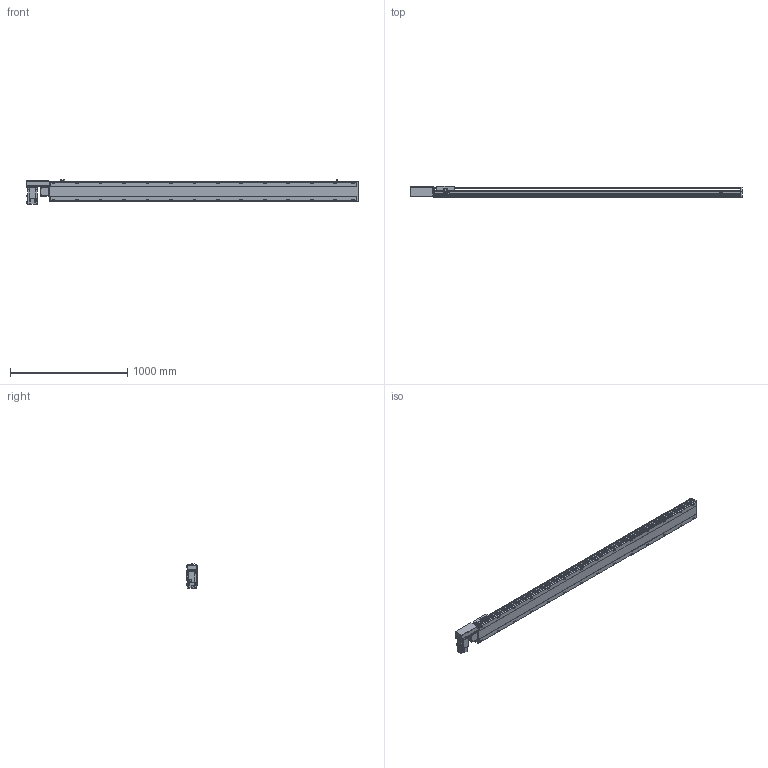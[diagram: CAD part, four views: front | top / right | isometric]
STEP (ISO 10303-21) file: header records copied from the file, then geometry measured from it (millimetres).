
FILE_DESCRIPTION(/* description */ ('STEP AP214'),/* implementation_level */ '2;1');
FILE_NAME(/* name */ 'PBS170-P40-S2350-R-T75-C1-N(0)',/* time_stamp */ '2022-06-07T09:32:12+02:00',/* author */ ('License CC BY-ND 4.0'),/* organization */ ('CADENAS'),/* preprocessor_version */ 'ST-DEVELOPER v18.102',/* originating_system */ 'PARTsolutions',/* authorisation */ ' ');
FILE_SCHEMA (('AUTOMOTIVE_DESIGN {1 0 10303 214 3 1 1}'));
Length unit declared in the file: millimetre
Products named in the file (7): PBS170-P40-S2350-R-T75-C1-N(0); PBS170_sensor; PBS170_plant; PBS170_sliser; T75-p1; PBS170T-R_motors; PBS170-S2350()_body
Assembly tree (8 placements, depth 2):
  PBS170-P40-S2350-R-T75-C1-N(0)
    PBS170_sensor  x3
    PBS170_plant
    PBS170_sliser
    T75-p1
    PBS170T-R_motors
    PBS170-S2350()_body
Bounding box: 2828 x 97 x 205.3 mm (x, y, z)
Volume: 20610158.3 mm3; surface area: 2600493.6 mm2
Topology: 8 solids, 8 shells, 1178 faces, 3115 edges, 2030 vertices
Faces by surface type: plane 723, cylinder 387, cone 58, sphere 8, torus 2
Full cylindrical faces by diameter (mm): 3.242 x4, 4 x2, 4.4 x4, 4.5 x6, 4.917 x4, 6 x9, 6.647 x36, 7 x2, 7.5 x4, 8 x8, 8.5 x28, 10 x4, 10.5 x28, 11 x2, 30 x2, 40 x1, 70 x1
Entity records: 33866 total; most frequent: CARTESIAN_POINT 6385, DIRECTION 5720, ORIENTED_EDGE 5388, EDGE_CURVE 2694, AXIS2_PLACEMENT_3D 2017, VERTEX_POINT 1874, LINE 1686, VECTOR 1686
